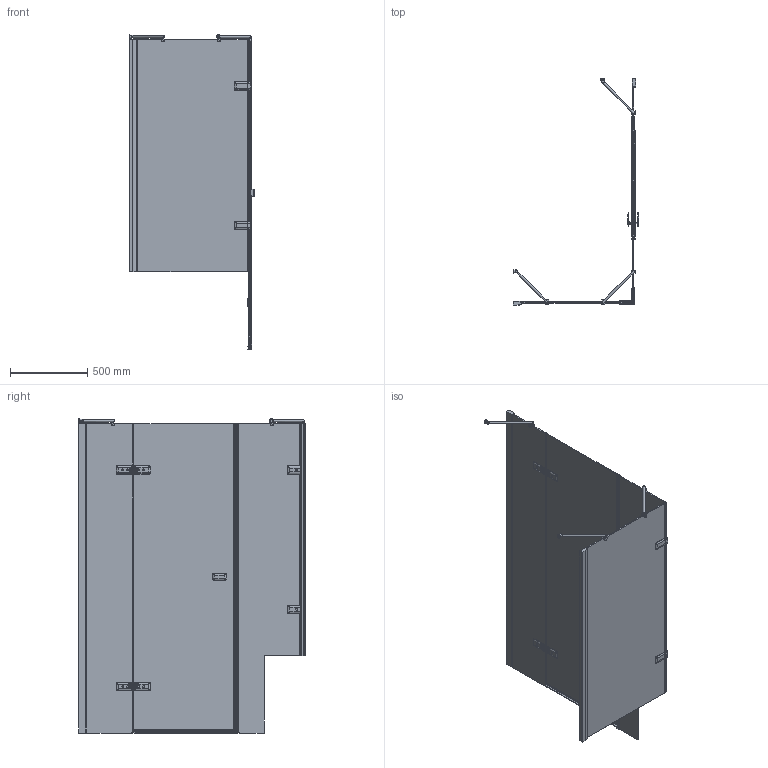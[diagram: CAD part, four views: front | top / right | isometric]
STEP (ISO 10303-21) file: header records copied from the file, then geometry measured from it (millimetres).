
FILE_DESCRIPTION(/* description */ (''),/* implementation_level */ '2;1');
FILE_NAME(/* name */ 'D:\4\98\TREND RECTAN GK-864B1VP\TREND RECTAN GK-864B1VP правая модель\TREND RECTAN GK-864B1VP ПРАВАЯ-3D.stp',/* time_stamp */ '2018-06-08T11:27:00+03:00',/* author */ ('ChechurovS'),/* organization */ (''),/* preprocessor_version */ 'ST-DEVELOPER v15.2',/* originating_system */ 'Autodesk Inventor 2014',/* authorisation */ '');
FILE_SCHEMA (('CONFIG_CONTROL_DESIGN'));
Products named in the file (1): TREND RECTAN GK-864B1VP ПРАВАЯ-
3D
Bounding box: 812.64 x 1463.94 x 2031.5 mm (x, y, z)
Volume: 32487099.3 mm3; surface area: 8441957.9 mm2
Topology: 14 solids, 14 shells, 1541 faces, 4053 edges, 2511 vertices
Faces by surface type: plane 901, cylinder 392, bspline 164, torus 44, sphere 22, cone 18
Full cylindrical faces by diameter (mm): 6 x2, 9 x8, 12 x4, 13 x2, 15 x3, 20 x6, 26 x2
Entity records: 67868 total; most frequent: CARTESIAN_POINT 29608, ORIENTED_EDGE 7792, DIRECTION 7332, EDGE_CURVE 3896, VERTEX_POINT 2465, AXIS2_PLACEMENT_3D 2461, LINE 2410, VECTOR 2410
